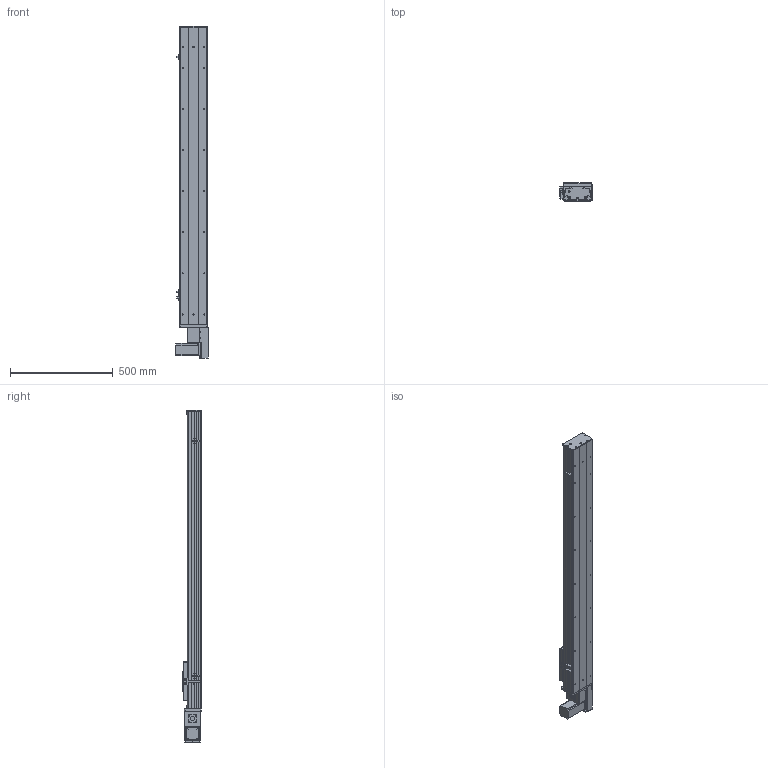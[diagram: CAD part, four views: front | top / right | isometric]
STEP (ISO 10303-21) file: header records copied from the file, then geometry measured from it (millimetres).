
FILE_DESCRIPTION (( 'STEP AP203' ), '1' );
FILE_NAME ('Y135CB-D90-S1150-BL-P400W.STEP', '2020-02-17T09:08:32', ( '微软用户' ), ( '微软中国' ), 'SwSTEP 2.0', 'SolidWorks 2017', '' );
FILE_SCHEMA (( 'CONFIG_CONTROL_DESIGN' ));
Length unit declared in the file: millimetre
Products named in the file (18): C-詩湍揤踡え-陔; Y10B--々湍喘謫眊--666; 135CB--詩湍-CE; Y10B-耜蚾蟀諉啣----; Y100-135俋离換覜ん--; Y俋欶BR----; Y135C-陔俋离換覜結え-; 0B-埴倛裔啣; 5C--俋欶; 0B-源倛裔啣; C-雄赽釱--; 0B-萇儂楊擘啣; Y135CB-耜裔; Y135CB-D90-S1150-BL-P400W; san松下电机400不带刹车----; 135CB---遴掛极.-; 5CB --掛极耜裔啣-; 35CB---喘謫眊楊擘啣
Assembly tree (21 placements, depth 2):
  Y135CB-D90-S1150-BL-P400W
    Y135CB-耜裔
    135CB---遴掛极.-
    35CB---喘謫眊楊擘啣
    Y10B--々湍喘謫眊--666
    Y10B-耜蚾蟀諉啣----
    Y俋欶BR----
    0B-埴倛裔啣
    0B-源倛裔啣
    0B-萇儂楊擘啣
    san松下电机400不带刹车----
    5CB --掛极耜裔啣-  x2
    C-詩湍揤踡え-陔  x2
    135CB--詩湍-CE
    Y100-135俋离換覜ん--  x3
    Y135C-陔俋离換覜結え-
    5C--俋欶
    C-雄赽釱--
Bounding box: 157.5 x 91 x 1614.5 mm (x, y, z)
Volume: 4776782.1 mm3; surface area: 1873729.7 mm2
Topology: 21 solids, 21 shells, 949 faces, 2545 edges, 1686 vertices
Faces by surface type: cylinder 475, plane 458, cone 16
Entity records: 29543 total; most frequent: DIRECTION 4905, CARTESIAN_POINT 4856, ORIENTED_EDGE 4566, EDGE_CURVE 2283, AXIS2_PLACEMENT_3D 1787, VERTEX_POINT 1514, LINE 1331, VECTOR 1331
